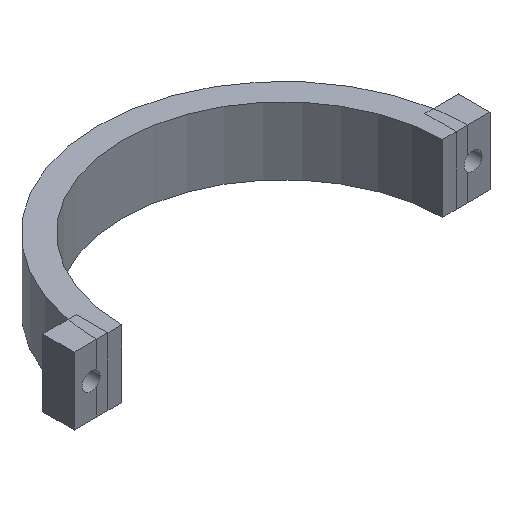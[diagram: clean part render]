
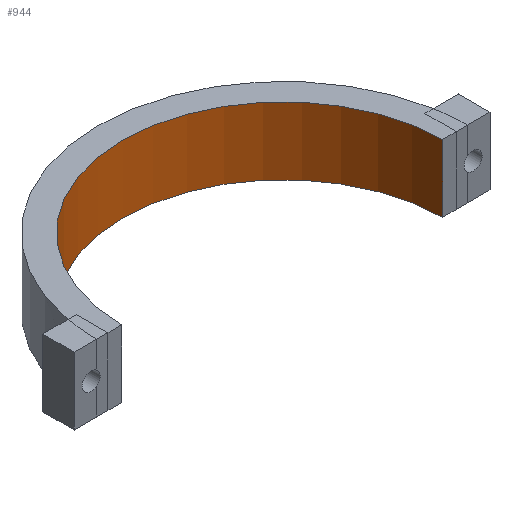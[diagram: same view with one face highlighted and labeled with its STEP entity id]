
A CAD part, isometric view. The second image highlights one B-rep face of the part: STEP entity #944.
In plain terms, the highlighted cylindrical face has radius 28.55 mm (diameter 57.1 mm), a partial arc.
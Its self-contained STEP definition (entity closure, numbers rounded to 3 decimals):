
#99 = PLANE('',#100);
#100 = AXIS2_PLACEMENT_3D('',#101,#102,#103);
#101 = CARTESIAN_POINT('',(0.,0.,46.));
#102 = DIRECTION('',(0.,0.,1.));
#103 = DIRECTION('',(1.,0.,-0.));
#204 = PLANE('',#205);
#205 = AXIS2_PLACEMENT_3D('',#206,#207,#208);
#206 = CARTESIAN_POINT('',(-50.,0.2,30.));
#207 = DIRECTION('',(-0.,1.,0.));
#208 = DIRECTION('',(0.,0.,1.));
#270 = VERTEX_POINT('',#271);
#271 = CARTESIAN_POINT('',(28.549,0.2,46.));
#373 = VERTEX_POINT('',#374);
#374 = CARTESIAN_POINT('',(-28.549,0.2,46.));
#387 = PLANE('',#388);
#388 = AXIS2_PLACEMENT_3D('',#389,#390,#391);
#389 = CARTESIAN_POINT('',(-50.,0.2,30.));
#390 = DIRECTION('',(-0.,1.,0.));
#391 = DIRECTION('',(0.,0.,1.));
#398 = EDGE_CURVE('',#270,#373,#399,.T.);
#399 = SURFACE_CURVE('',#400,(#405,#412),.PCURVE_S1.);
#400 = CIRCLE('',#401,28.55);
#401 = AXIS2_PLACEMENT_3D('',#402,#403,#404);
#402 = CARTESIAN_POINT('',(0.,0.,46.));
#403 = DIRECTION('',(0.,0.,1.));
#404 = DIRECTION('',(1.,0.,-0.));
#405 = PCURVE('',#99,#406);
#406 = DEFINITIONAL_REPRESENTATION('',(#407),#411);
#407 = CIRCLE('',#408,28.55);
#408 = AXIS2_PLACEMENT_2D('',#409,#410);
#409 = CARTESIAN_POINT('',(0.,0.));
#410 = DIRECTION('',(1.,0.));
#411 = ( GEOMETRIC_REPRESENTATION_CONTEXT(2) 
PARAMETRIC_REPRESENTATION_CONTEXT() REPRESENTATION_CONTEXT('2D SPACE',''
  ) );
#412 = PCURVE('',#413,#418);
#413 = CYLINDRICAL_SURFACE('',#414,28.55);
#414 = AXIS2_PLACEMENT_3D('',#415,#416,#417);
#415 = CARTESIAN_POINT('',(0.,0.,33.));
#416 = DIRECTION('',(0.,0.,1.));
#417 = DIRECTION('',(1.,0.,-0.));
#418 = DEFINITIONAL_REPRESENTATION('',(#419),#423);
#419 = LINE('',#420,#421);
#420 = CARTESIAN_POINT('',(0.,13.));
#421 = VECTOR('',#422,1.);
#422 = DIRECTION('',(1.,0.));
#423 = ( GEOMETRIC_REPRESENTATION_CONTEXT(2) 
PARAMETRIC_REPRESENTATION_CONTEXT() REPRESENTATION_CONTEXT('2D SPACE',''
  ) );
#828 = VERTEX_POINT('',#829);
#829 = CARTESIAN_POINT('',(28.549,0.2,34.));
#842 = PLANE('',#843);
#843 = AXIS2_PLACEMENT_3D('',#844,#845,#846);
#844 = CARTESIAN_POINT('',(0.,0.,34.));
#845 = DIRECTION('',(0.,0.,1.));
#846 = DIRECTION('',(1.,0.,-0.));
#853 = EDGE_CURVE('',#828,#270,#854,.T.);
#854 = SURFACE_CURVE('',#855,(#859,#865),.PCURVE_S1.);
#855 = LINE('',#856,#857);
#856 = CARTESIAN_POINT('',(28.549,0.2,33.));
#857 = VECTOR('',#858,1.);
#858 = DIRECTION('',(0.,0.,1.));
#859 = PCURVE('',#204,#860);
#860 = DEFINITIONAL_REPRESENTATION('',(#861),#864);
#861 = B_SPLINE_CURVE_WITH_KNOTS('',1,(#862,#863),.UNSPECIFIED.,.F.,.F.,
  (2,2),(1.,13.),.PIECEWISE_BEZIER_KNOTS.);
#862 = CARTESIAN_POINT('',(4.,78.549));
#863 = CARTESIAN_POINT('',(16.,78.549));
#864 = ( GEOMETRIC_REPRESENTATION_CONTEXT(2) 
PARAMETRIC_REPRESENTATION_CONTEXT() REPRESENTATION_CONTEXT('2D SPACE',''
  ) );
#865 = PCURVE('',#413,#866);
#866 = DEFINITIONAL_REPRESENTATION('',(#867),#870);
#867 = B_SPLINE_CURVE_WITH_KNOTS('',1,(#868,#869),.UNSPECIFIED.,.F.,.F.,
  (2,2),(1.,13.),.PIECEWISE_BEZIER_KNOTS.);
#868 = CARTESIAN_POINT('',(0.007,1.));
#869 = CARTESIAN_POINT('',(0.007,13.));
#870 = ( GEOMETRIC_REPRESENTATION_CONTEXT(2) 
PARAMETRIC_REPRESENTATION_CONTEXT() REPRESENTATION_CONTEXT('2D SPACE',''
  ) );
#944 = ADVANCED_FACE('',(#945),#413,.F.);
#945 = FACE_BOUND('',#946,.F.);
#946 = EDGE_LOOP('',(#947,#948,#949,#973));
#947 = ORIENTED_EDGE('',*,*,#398,.F.);
#948 = ORIENTED_EDGE('',*,*,#853,.F.);
#949 = ORIENTED_EDGE('',*,*,#950,.T.);
#950 = EDGE_CURVE('',#828,#951,#953,.T.);
#951 = VERTEX_POINT('',#952);
#952 = CARTESIAN_POINT('',(-28.549,0.2,34.));
#953 = SURFACE_CURVE('',#954,(#959,#966),.PCURVE_S1.);
#954 = CIRCLE('',#955,28.55);
#955 = AXIS2_PLACEMENT_3D('',#956,#957,#958);
#956 = CARTESIAN_POINT('',(0.,0.,34.));
#957 = DIRECTION('',(0.,0.,1.));
#958 = DIRECTION('',(1.,0.,-0.));
#959 = PCURVE('',#413,#960);
#960 = DEFINITIONAL_REPRESENTATION('',(#961),#965);
#961 = LINE('',#962,#963);
#962 = CARTESIAN_POINT('',(0.,1.));
#963 = VECTOR('',#964,1.);
#964 = DIRECTION('',(1.,0.));
#965 = ( GEOMETRIC_REPRESENTATION_CONTEXT(2) 
PARAMETRIC_REPRESENTATION_CONTEXT() REPRESENTATION_CONTEXT('2D SPACE',''
  ) );
#966 = PCURVE('',#842,#967);
#967 = DEFINITIONAL_REPRESENTATION('',(#968),#972);
#968 = CIRCLE('',#969,28.55);
#969 = AXIS2_PLACEMENT_2D('',#970,#971);
#970 = CARTESIAN_POINT('',(0.,0.));
#971 = DIRECTION('',(1.,0.));
#972 = ( GEOMETRIC_REPRESENTATION_CONTEXT(2) 
PARAMETRIC_REPRESENTATION_CONTEXT() REPRESENTATION_CONTEXT('2D SPACE',''
  ) );
#973 = ORIENTED_EDGE('',*,*,#974,.T.);
#974 = EDGE_CURVE('',#951,#373,#975,.T.);
#975 = SURFACE_CURVE('',#976,(#980,#986),.PCURVE_S1.);
#976 = LINE('',#977,#978);
#977 = CARTESIAN_POINT('',(-28.549,0.2,33.));
#978 = VECTOR('',#979,1.);
#979 = DIRECTION('',(0.,0.,1.));
#980 = PCURVE('',#413,#981);
#981 = DEFINITIONAL_REPRESENTATION('',(#982),#985);
#982 = B_SPLINE_CURVE_WITH_KNOTS('',1,(#983,#984),.UNSPECIFIED.,.F.,.F.,
  (2,2),(1.,13.),.PIECEWISE_BEZIER_KNOTS.);
#983 = CARTESIAN_POINT('',(3.135,1.));
#984 = CARTESIAN_POINT('',(3.135,13.));
#985 = ( GEOMETRIC_REPRESENTATION_CONTEXT(2) 
PARAMETRIC_REPRESENTATION_CONTEXT() REPRESENTATION_CONTEXT('2D SPACE',''
  ) );
#986 = PCURVE('',#387,#987);
#987 = DEFINITIONAL_REPRESENTATION('',(#988),#991);
#988 = B_SPLINE_CURVE_WITH_KNOTS('',1,(#989,#990),.UNSPECIFIED.,.F.,.F.,
  (2,2),(1.,13.),.PIECEWISE_BEZIER_KNOTS.);
#989 = CARTESIAN_POINT('',(4.,21.451));
#990 = CARTESIAN_POINT('',(16.,21.451));
#991 = ( GEOMETRIC_REPRESENTATION_CONTEXT(2) 
PARAMETRIC_REPRESENTATION_CONTEXT() REPRESENTATION_CONTEXT('2D SPACE',''
  ) );
